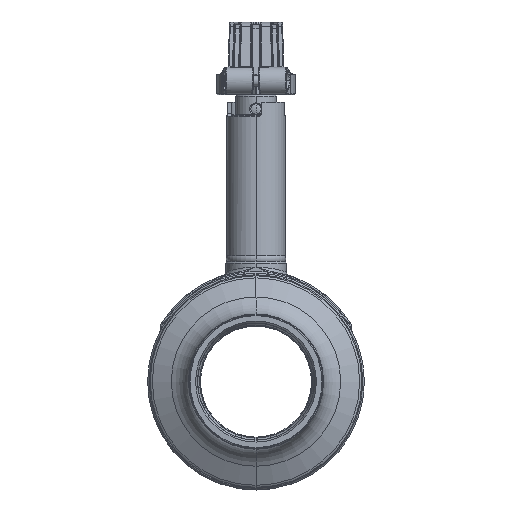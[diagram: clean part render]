
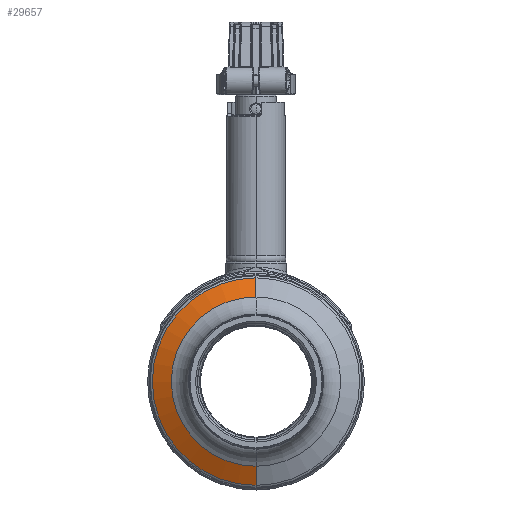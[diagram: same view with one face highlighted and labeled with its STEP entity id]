
A CAD part, left-side view. The second image highlights one B-rep face of the part: STEP entity #29657.
In plain terms, the highlighted conical face has half-angle 62.949 degrees and reference radius 54.294 mm.
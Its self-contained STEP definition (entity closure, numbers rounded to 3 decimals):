
#7114=CARTESIAN_POINT('',(-51.392,0.,0.));
#7115=DIRECTION('',(1.,0.,0.));
#7116=DIRECTION('',(0.,0.,-1.));
#7117=AXIS2_PLACEMENT_3D('',#7114,#7115,#7116);
#7119=CARTESIAN_POINT('',(-56.989,0.,0.));
#7120=DIRECTION('',(1.,0.,0.));
#7121=DIRECTION('',(0.,0.,-1.));
#7122=AXIS2_PLACEMENT_3D('',#7119,#7120,#7121);
#7129=DIRECTION('',(-0.455,0.,0.891));
#7130=VECTOR('',#7129,12.306);
#7131=CARTESIAN_POINT('',(-51.392,0.,
-59.774));
#7132=LINE('',#7131,#7130);
#7138=DIRECTION('',(-0.455,0.,-0.891));
#7139=VECTOR('',#7138,12.306);
#7140=CARTESIAN_POINT('',(-51.392,0.,
59.774));
#7141=LINE('',#7140,#7139);
#19411=CARTESIAN_POINT('',(-51.392,0.,-59.774));
#19412=CARTESIAN_POINT('',(-51.392,0.,
59.774));
#19413=VERTEX_POINT('',#19411);
#19414=VERTEX_POINT('',#19412);
#19419=CARTESIAN_POINT('',(-56.989,0.,
48.814));
#19420=VERTEX_POINT('',#19419);
#19421=CARTESIAN_POINT('',(-56.989,0.,
-48.814));
#19422=VERTEX_POINT('',#19421);
#29643=CARTESIAN_POINT('',(-54.19,0.,0.));
#29644=DIRECTION('',(1.,0.,0.));
#29645=DIRECTION('',(0.,0.,1.));
#29646=AXIS2_PLACEMENT_3D('',#29643,#29644,#29645);
#29647=CONICAL_SURFACE('',#29646,54.294,62.949);
#29648=ORIENTED_EDGE('',*,*,#29637,.T.);
#29650=ORIENTED_EDGE('',*,*,#29649,.T.);
#29652=ORIENTED_EDGE('',*,*,#29651,.F.);
#29654=ORIENTED_EDGE('',*,*,#29653,.F.);
#29655=EDGE_LOOP('',(#29648,#29650,#29652,#29654));
#29656=FACE_OUTER_BOUND('',#29655,.F.);
#7118=CIRCLE('',#7117,59.774);
#7123=CIRCLE('',#7122,48.814);
#29637=EDGE_CURVE('',#19413,#19414,#7118,.T.);
#29649=EDGE_CURVE('',#19414,#19420,#7141,.T.);
#29651=EDGE_CURVE('',#19422,#19420,#7123,.T.);
#29653=EDGE_CURVE('',#19413,#19422,#7132,.T.);
#29657=ADVANCED_FACE('',(#29656),#29647,.T.);
